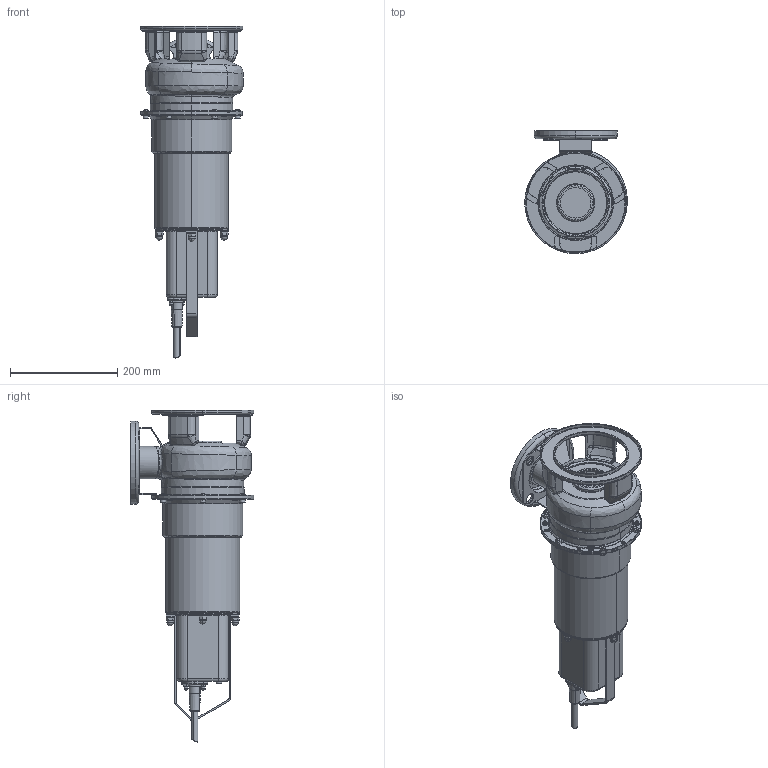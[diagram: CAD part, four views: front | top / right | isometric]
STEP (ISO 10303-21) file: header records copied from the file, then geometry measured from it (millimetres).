
FILE_DESCRIPTION((''),'2;1');
FILE_NAME('DWF_M_1006_ASM','2014-04-27T',('Rosa'),('"Ebara Pumps Europe +39.444.706811"'),'PRO/ENGINEER BY PARAMETRIC TECHNOLOGY CORPORATION, 2009360','PRO/ENGINEER BY PARAMETRIC TECHNOLOGY CORPORATION, 2009360','');
FILE_SCHEMA(('AUTOMOTIVE_DESIGN { 1 0 10303 214 1 1 1 1 }'));
Length unit declared in the file: millimetre
Products named in the file (18): 20698; DADO_A_SALDARE_M6; DADO_M5; 62032; 20986; 20985; 20987_ASM; 15032; 72074; CORPO_POMPA_DWF_ASM; CASSA_MOTORE_ALTA_M6X12; COPERCHIO_MOTORE_H125; 60024; 6602X_SEMPLICE; 65017_SEMPLICE; DADO_CALOTTA_M5; VITE_TCC_M5X8_UNI7687; DWF_M_1006_ASM
Assembly tree (28 placements, depth 4):
  DWF_M_1006_ASM
    CORPO_POMPA_DWF_ASM
      20698
      DADO_A_SALDARE_M6  x6
      DADO_M5  x4
      62032
      20987_ASM
        20986
        20985
      15032
      72074  x3
    CASSA_MOTORE_ALTA_M6X12
    COPERCHIO_MOTORE_H125
    60024
    6602X_SEMPLICE
    65017_SEMPLICE
    DADO_CALOTTA_M5  x2
    VITE_TCC_M5X8_UNI7687
Bounding box: 191.27 x 230 x 618.39 mm (x, y, z)
Volume: 5036582.1 mm3; surface area: 657694 mm2
Topology: 26 solids, 29 shells, 1143 faces, 2636 edges, 1606 vertices
Faces by surface type: plane 368, cylinder 333, bspline 170, torus 133, cone 109, sphere 26, extrusion 4
Entity records: 45325 total; most frequent: CARTESIAN_POINT 14056, DIRECTION 4394, ORIENTED_EDGE 4060, PRESENTATION_STYLE_ASSIGNMENT 2048, STYLED_ITEM 2048, CURVE_STYLE 2032, EDGE_CURVE 2032, AXIS2_PLACEMENT_3D 1841
